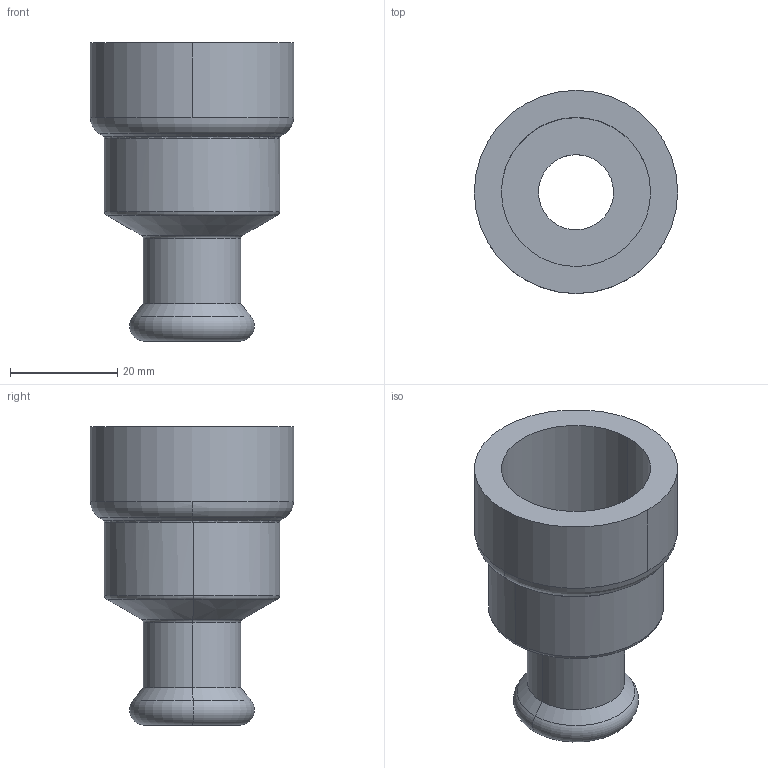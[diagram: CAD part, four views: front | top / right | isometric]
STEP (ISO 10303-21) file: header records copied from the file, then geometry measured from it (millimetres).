
FILE_DESCRIPTION(('Creo Elements/Direct Modeling STEP Export'),'2;1');
FILE_NAME('C9441_3-4_15.stp','2020-07-20T12:11:46',(''),(''),'PTC Creo Elements/Direct Modeling STEP processor for AP214 (Solid Model)','PTC Creo Elements/Direct Modeling 19.0C 15-Aug-2015 (C) Parametric Technology GmbH','');
FILE_SCHEMA(('AUTOMOTIVE_DESIGN { 1 0 10303 214 1 1 1 1 }'));
Length unit declared in the file: millimetre
Products named in the file (1): C9441_3-4_15
Bounding box: 37.9 x 37.9 x 55.62 mm (x, y, z)
Volume: 15917.5 mm3; surface area: 10641 mm2
Topology: 1 solids, 1 shells, 32 faces, 68 edges, 40 vertices
Faces by surface type: cylinder 12, torus 10, cone 6, plane 4
Entity records: 790 total; most frequent: DIRECTION 140, ORIENTED_EDGE 136, CARTESIAN_POINT 119, EDGE_CURVE 68, AXIS2_PLACEMENT_3D 61, VERTEX_POINT 40, EDGE_LOOP 36, FACE_OUTER_BOUND 32
